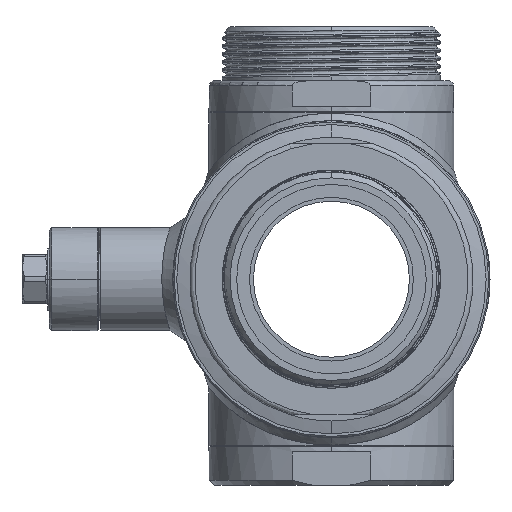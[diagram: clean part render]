
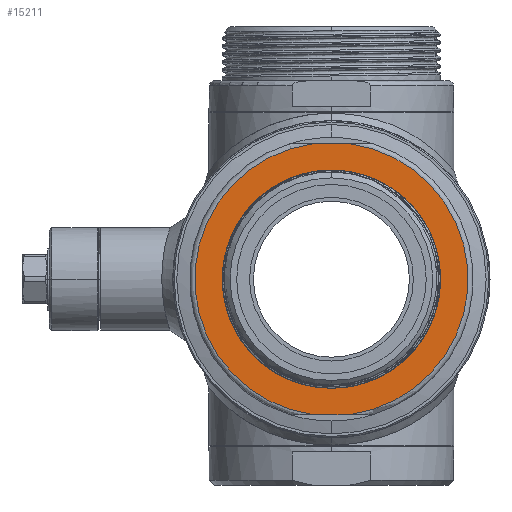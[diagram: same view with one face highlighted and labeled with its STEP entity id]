
A CAD part, left-side view. The second image highlights one B-rep face of the part: STEP entity #15211.
In plain terms, the highlighted planar face has unit normal (-1, 0, 0).
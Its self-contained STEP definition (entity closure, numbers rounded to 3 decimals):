
#12735=DIRECTION('',(0.,1.,0.));
#12736=VECTOR('',#12735,14.526);
#12737=CARTESIAN_POINT('',(-77.,-7.263,-52.5));
#12738=LINE('',#12737,#12736);
#12739=DIRECTION('',(0.,1.,0.));
#12740=VECTOR('',#12739,14.526);
#12741=CARTESIAN_POINT('',(-77.,-7.263,52.5));
#12742=LINE('',#12741,#12740);
#12743=CARTESIAN_POINT('',(-77.,0.,0.));
#12744=DIRECTION('',(-1.,0.,0.));
#12745=DIRECTION('',(0.,0.,-1.));
#12746=AXIS2_PLACEMENT_3D('',#12743,#12744,#12745);
#12748=CARTESIAN_POINT('',(-77.,-42.298,
0.));
#12749=CARTESIAN_POINT('',(-77.,-42.298,
0.249));
#12750=CARTESIAN_POINT('',(-77.,-42.292,
0.748));
#12751=CARTESIAN_POINT('',(-77.,-42.282,1.247));
#12752=CARTESIAN_POINT('',(-77.,-42.274,1.496));
#12792=CARTESIAN_POINT('',(-77.,0.,0.));
#12793=DIRECTION('',(-1.,0.,0.));
#12794=DIRECTION('',(0.,-0.137,-0.991));
#12795=AXIS2_PLACEMENT_3D('',#12792,#12793,#12794);
#12852=CARTESIAN_POINT('',(-77.,0.,0.));
#12853=DIRECTION('',(1.,0.,0.));
#12854=DIRECTION('',(0.,0.137,-0.991));
#12855=AXIS2_PLACEMENT_3D('',#12852,#12853,#12854);
#13263=CARTESIAN_POINT('',(-77.,0.,0.));
#13264=DIRECTION('',(1.,0.,0.));
#13265=DIRECTION('',(0.,0.,-1.));
#13266=AXIS2_PLACEMENT_3D('',#13263,#13264,#13265);
#14189=CARTESIAN_POINT('',(-77.,-7.263,-52.5));
#14190=CARTESIAN_POINT('',(-77.,-7.263,52.5));
#14191=VERTEX_POINT('',#14189);
#14192=VERTEX_POINT('',#14190);
#14197=CARTESIAN_POINT('',(-77.,7.263,-52.5));
#14198=CARTESIAN_POINT('',(-77.,7.263,52.5));
#14199=VERTEX_POINT('',#14197);
#14200=VERTEX_POINT('',#14198);
#14221=CARTESIAN_POINT('',(-77.,-42.298,
0.));
#14223=VERTEX_POINT('',#14221);
#14256=CARTESIAN_POINT('',(-77.,0.,-42.3));
#14257=VERTEX_POINT('',#14256);
#14258=CARTESIAN_POINT('',(-77.,-42.274,1.496));
#14259=VERTEX_POINT('',#14258);
#15189=CARTESIAN_POINT('',(-77.,0.,0.));
#15190=DIRECTION('',(-1.,0.,0.));
#15191=DIRECTION('',(0.,0.,1.));
#15192=AXIS2_PLACEMENT_3D('',#15189,#15190,#15191);
#15193=PLANE('',#15192);
#15195=ORIENTED_EDGE('',*,*,#15194,.T.);
#15197=ORIENTED_EDGE('',*,*,#15196,.T.);
#15199=ORIENTED_EDGE('',*,*,#15198,.F.);
#15201=ORIENTED_EDGE('',*,*,#15200,.F.);
#15202=EDGE_LOOP('',(#15195,#15197,#15199,#15201));
#15203=FACE_OUTER_BOUND('',#15202,.F.);
#15204=ORIENTED_EDGE('',*,*,#15099,.T.);
#15206=ORIENTED_EDGE('',*,*,#15205,.T.);
#15208=ORIENTED_EDGE('',*,*,#15207,.F.);
#15209=EDGE_LOOP('',(#15204,#15206,#15208));
#15210=FACE_BOUND('',#15209,.F.);
#12747=CIRCLE('',#12746,42.3);
#12753=B_SPLINE_CURVE_WITH_KNOTS('',3,(#12748,#12749,#12750,#12751,#12752),
.UNSPECIFIED.,.F.,.F.,(4,1,4),(0.,0.5,1.),.UNSPECIFIED.);
#12796=CIRCLE('',#12795,53.);
#12856=CIRCLE('',#12855,53.);
#13267=CIRCLE('',#13266,42.3);
#15099=EDGE_CURVE('',#14257,#14223,#12747,.T.);
#15194=EDGE_CURVE('',#14191,#14199,#12738,.T.);
#15196=EDGE_CURVE('',#14199,#14200,#12856,.T.);
#15198=EDGE_CURVE('',#14192,#14200,#12742,.T.);
#15200=EDGE_CURVE('',#14191,#14192,#12796,.T.);
#15205=EDGE_CURVE('',#14223,#14259,#12753,.T.);
#15207=EDGE_CURVE('',#14257,#14259,#13267,.T.);
#15211=ADVANCED_FACE('',(#15203,#15210),#15193,.T.);
